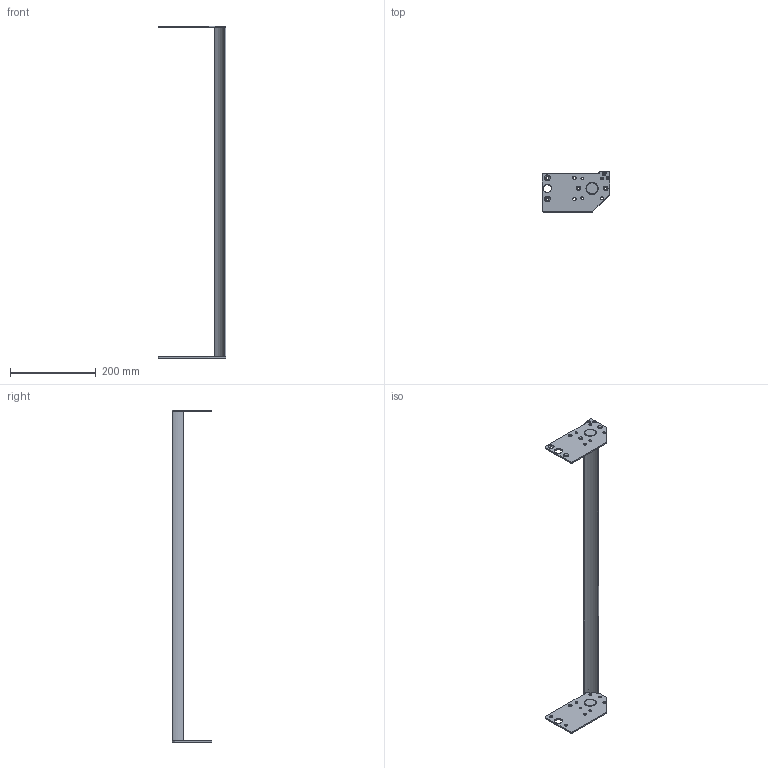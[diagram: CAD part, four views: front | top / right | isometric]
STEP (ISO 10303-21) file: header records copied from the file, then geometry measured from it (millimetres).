
FILE_DESCRIPTION((''),'2;1');
FILE_NAME('27M3300-10_ASM','2017-03-29T',('jenni.wallner'),(''),'PRO/ENGINEER BY PARAMETRIC TECHNOLOGY CORPORATION, 2012420','PRO/ENGINEER BY PARAMETRIC TECHNOLOGY CORPORATION, 2012420','');
FILE_SCHEMA(('CONFIG_CONTROL_DESIGN'));
Length unit declared in the file: inch
Products named in the file (5): 350539-30; 350540; 350541; 930410M; 27M3300-10_ASM
Assembly tree (7 placements, depth 2):
  27M3300-10_ASM
    350539-30
    350540
    350541
    930410M  x4
Bounding box: 157.96 x 92.74 x 774.34 mm (x, y, z)
Volume: 294937.3 mm3; surface area: 141723.1 mm2
Topology: 7 solids, 11 shells, 206 faces, 540 edges, 352 vertices
Faces by surface type: cylinder 96, plane 70, cone 40
Entity records: 5328 total; most frequent: DIRECTION 972, CARTESIAN_POINT 907, ORIENTED_EDGE 836, EDGE_CURVE 426, AXIS2_PLACEMENT_3D 383, VERTEX_POINT 280, EDGE_LOOP 220, CIRCLE 214
